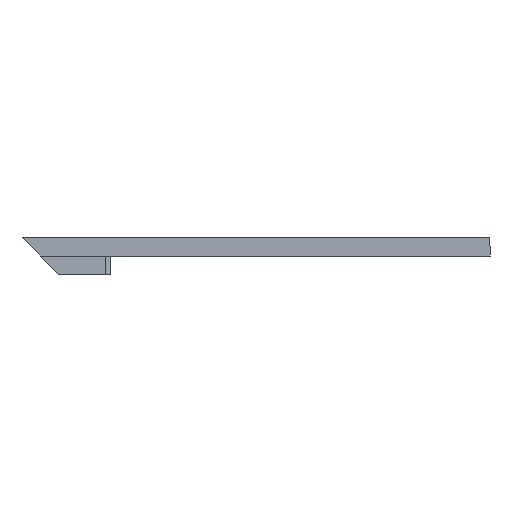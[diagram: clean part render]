
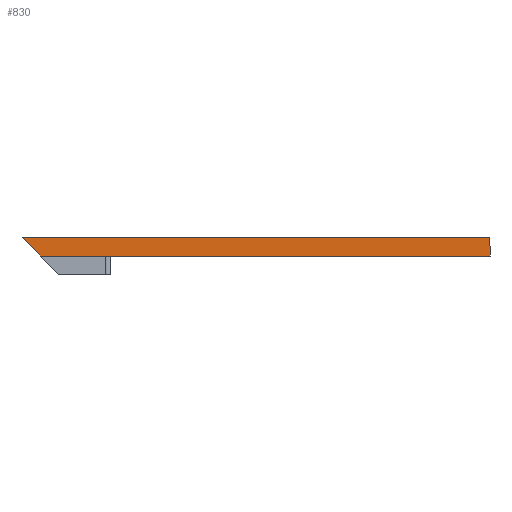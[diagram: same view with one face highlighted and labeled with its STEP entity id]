
A CAD part, left-side view. The second image highlights one B-rep face of the part: STEP entity #830.
In plain terms, the highlighted planar face has unit normal (-1, 0, 0).
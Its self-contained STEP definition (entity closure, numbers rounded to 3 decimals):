
#1 = PLANE ( 'NONE',  #987 ) ;
#6 = DIRECTION ( 'NONE',  ( 1., 0., 0. ) ) ;
#8 = DIRECTION ( 'NONE',  ( 0., 1., 0. ) ) ;
#17 = CARTESIAN_POINT ( 'NONE',  ( -22.9, 26., 2. ) ) ;
#104 = CARTESIAN_POINT ( 'NONE',  ( -22.9, 26., 2. ) ) ;
#114 = DIRECTION ( 'NONE',  ( 0., -0.707, -0.707 ) ) ;
#125 = DIRECTION ( 'NONE',  ( 0., -1., 0. ) ) ;
#128 = CARTESIAN_POINT ( 'NONE',  ( -22.9, 26., 2. ) ) ;
#171 = CARTESIAN_POINT ( 'NONE',  ( -22.9, -25.9, 2. ) ) ;
#189 = DIRECTION ( 'NONE',  ( 0., 0., -1. ) ) ;
#218 = DIRECTION ( 'NONE',  ( 0., -1., 0. ) ) ;
#228 = CARTESIAN_POINT ( 'NONE',  ( -22.9, 26., 0. ) ) ;
#422 = EDGE_CURVE ( 'NONE', #1254, #1300, #1617, .T. ) ;
#423 = EDGE_CURVE ( 'NONE', #1254, #1273, #1653, .T. ) ;
#455 = EDGE_CURVE ( 'NONE', #1300, #1282, #1684, .T. ) ;
#471 = EDGE_CURVE ( 'NONE', #1273, #1282, #1690, .T. ) ;
#720 = CARTESIAN_POINT ( 'NONE',  ( -22.9, -25.9, 0. ) ) ;
#734 = CARTESIAN_POINT ( 'NONE',  ( -22.9, 26., 2. ) ) ;
#744 = CARTESIAN_POINT ( 'NONE',  ( -22.9, 24., 0. ) ) ;
#772 = CARTESIAN_POINT ( 'NONE',  ( -22.9, -25.9, 2. ) ) ;
#830 = ADVANCED_FACE ( 'NONE', ( #1811 ), #1, .F. ) ;
#987 = AXIS2_PLACEMENT_3D ( 'NONE', #17, #6, #8 ) ;
#1171 = EDGE_LOOP ( 'NONE', ( #1378, #1405, #1450, #1388 ) ) ;
#1254 = VERTEX_POINT ( 'NONE', #734 ) ;
#1273 = VERTEX_POINT ( 'NONE', #744 ) ;
#1282 = VERTEX_POINT ( 'NONE', #720 ) ;
#1300 = VERTEX_POINT ( 'NONE', #772 ) ;
#1378 = ORIENTED_EDGE ( 'NONE', *, *, #455, .F. ) ;
#1388 = ORIENTED_EDGE ( 'NONE', *, *, #471, .T. ) ;
#1405 = ORIENTED_EDGE ( 'NONE', *, *, #422, .F. ) ;
#1450 = ORIENTED_EDGE ( 'NONE', *, *, #423, .T. ) ;
#1617 = LINE ( 'NONE', #104, #1632 ) ;
#1630 = VECTOR ( 'NONE', #114, 1000. ) ;
#1632 = VECTOR ( 'NONE', #125, 1000. ) ;
#1653 = LINE ( 'NONE', #128, #1630 ) ;
#1684 = LINE ( 'NONE', #171, #1715 ) ;
#1690 = LINE ( 'NONE', #228, #1716 ) ;
#1715 = VECTOR ( 'NONE', #189, 1000. ) ;
#1716 = VECTOR ( 'NONE', #218, 1000. ) ;
#1811 = FACE_OUTER_BOUND ( 'NONE', #1171, .T. ) ;
